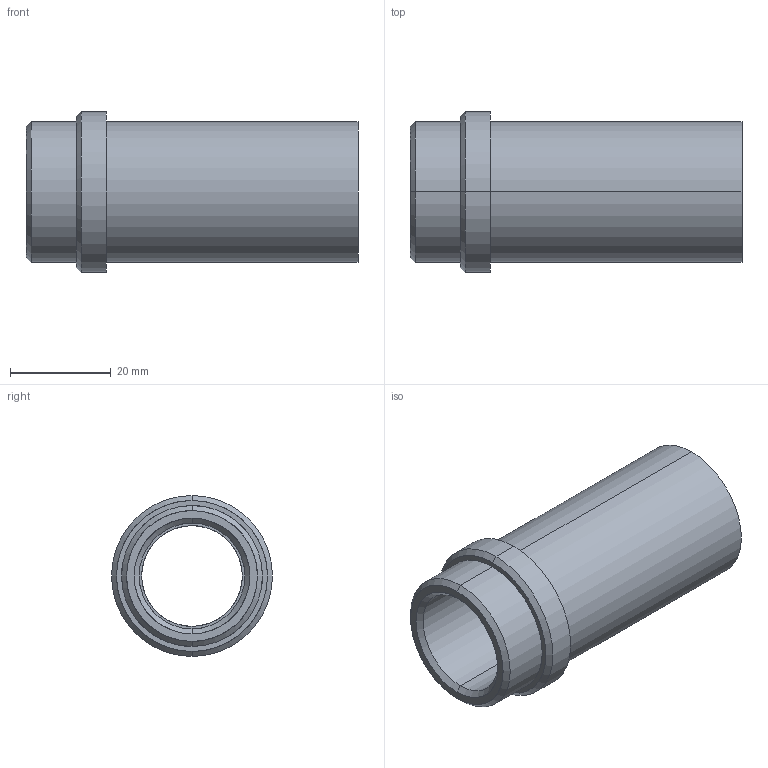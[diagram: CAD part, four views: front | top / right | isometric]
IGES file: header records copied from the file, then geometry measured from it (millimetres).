
Start section: START RECORD GO HERE.
Global section: file name: 358-20x66.igs; native system: DASSAULT SYSTEMES CATIA V5 R20 - www.3ds.com; preprocessor: CATIA Version 5 Release 20 ; author: Utente; organization: NB04-ASUS; date: 20210408.144524; units: millimetre
Bounding box: 66 x 32 x 32 mm (x, y, z)
Surface area: 10887.3 mm2 (no closed solid volume)
Topology: 0 solids, 0 shells, 23 faces, 148 edges, 148 vertices
Faces by surface type: revolution 18, plane 5
